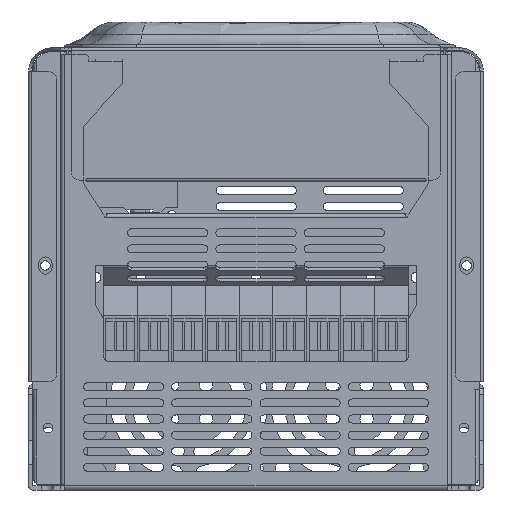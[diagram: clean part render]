
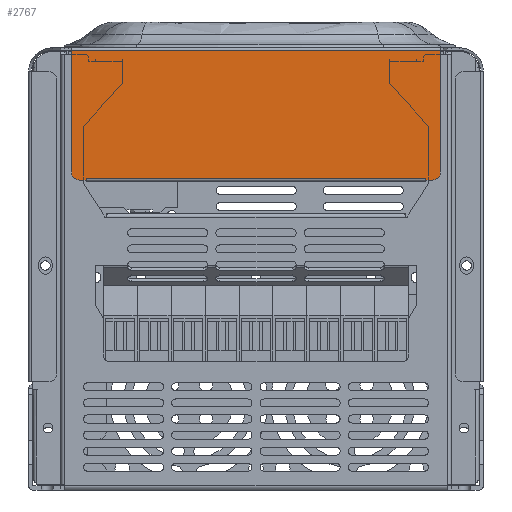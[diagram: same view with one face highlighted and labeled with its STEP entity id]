
A CAD part, front view. The second image highlights one B-rep face of the part: STEP entity #2767.
In plain terms, the highlighted planar face has unit normal (0, -1, 0).
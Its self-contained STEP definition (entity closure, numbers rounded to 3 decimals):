
#2767 = ADVANCED_FACE( '', ( #5920 ), #5921, .F. );
#5920 = FACE_OUTER_BOUND( '', #11511, .T. );
#5921 = PLANE( '', #11512 );
#11511 = EDGE_LOOP( '', ( #21845, #21846, #21847, #21848, #21849, #21850, #21851, #21852, #21853, #21854, #21855, #21856 ) );
#11512 = AXIS2_PLACEMENT_3D( '', #21857, #21858, #21859 );
#21845 = ORIENTED_EDGE( '', *, *, #29454, .F. );
#21846 = ORIENTED_EDGE( '', *, *, #29954, .T. );
#21847 = ORIENTED_EDGE( '', *, *, #30593, .T. );
#21848 = ORIENTED_EDGE( '', *, *, #31719, .F. );
#21849 = ORIENTED_EDGE( '', *, *, #31537, .F. );
#21850 = ORIENTED_EDGE( '', *, *, #30470, .T. );
#21851 = ORIENTED_EDGE( '', *, *, #31720, .F. );
#21852 = ORIENTED_EDGE( '', *, *, #31721, .F. );
#21853 = ORIENTED_EDGE( '', *, *, #29701, .F. );
#21854 = ORIENTED_EDGE( '', *, *, #31722, .T. );
#21855 = ORIENTED_EDGE( '', *, *, #29765, .F. );
#21856 = ORIENTED_EDGE( '', *, *, #31616, .T. );
#21857 = CARTESIAN_POINT( '', ( -69., -124.544, 24.061 ) );
#21858 = DIRECTION( '', ( 0., 1., 0. ) );
#21859 = DIRECTION( '', ( 0., 0., 1. ) );
#29454 = EDGE_CURVE( '', #44590, #44592, #44593, .T. );
#29701 = EDGE_CURVE( '', #45014, #45016, #45017, .T. );
#29765 = EDGE_CURVE( '', #45122, #45118, #45124, .T. );
#29954 = EDGE_CURVE( '', #44590, #45432, #45434, .F. );
#30470 = EDGE_CURVE( '', #46254, #46252, #46255, .F. );
#30593 = EDGE_CURVE( '', #45432, #46442, #46443, .T. );
#31537 = EDGE_CURVE( '', #46254, #47797, #47798, .T. );
#31616 = EDGE_CURVE( '', #45122, #44592, #47907, .T. );
#31719 = EDGE_CURVE( '', #47797, #46442, #48031, .T. );
#31720 = EDGE_CURVE( '', #48032, #46252, #48033, .T. );
#31721 = EDGE_CURVE( '', #45016, #48032, #48034, .T. );
#31722 = EDGE_CURVE( '', #45014, #45118, #48035, .T. );
#44590 = VERTEX_POINT( '', #53932 );
#44592 = VERTEX_POINT( '', #53935 );
#44593 = LINE( '', #53936, #53937 );
#45014 = VERTEX_POINT( '', #54586 );
#45016 = VERTEX_POINT( '', #54589 );
#45017 = LINE( '', #54590, #54591 );
#45118 = VERTEX_POINT( '', #54817 );
#45122 = VERTEX_POINT( '', #54823 );
#45124 = LINE( '', #54826, #54827 );
#45432 = VERTEX_POINT( '', #55294 );
#45434 = CIRCLE( '', #55297, 3. );
#46252 = VERTEX_POINT( '', #56518 );
#46254 = VERTEX_POINT( '', #56521 );
#46255 = CIRCLE( '', #56522, 3. );
#46442 = VERTEX_POINT( '', #56828 );
#46443 = LINE( '', #56829, #56830 );
#47797 = VERTEX_POINT( '', #59253 );
#47798 = LINE( '', #59254, #59255 );
#47907 = LINE( '', #59489, #59490 );
#48031 = LINE( '', #59668, #59669 );
#48032 = VERTEX_POINT( '', #59670 );
#48033 = LINE( '', #59671, #59672 );
#48034 = LINE( '', #59673, #59674 );
#48035 = LINE( '', #59675, #59676 );
#53932 = CARTESIAN_POINT( '', ( 66., -124.544, 24.561 ) );
#53935 = CARTESIAN_POINT( '', ( 63.502, -124.544, 24.561 ) );
#53936 = CARTESIAN_POINT( '', ( 63.502, -124.544, 24.561 ) );
#53937 = VECTOR( '', #67877, 1000. );
#54586 = CARTESIAN_POINT( '', ( -63.5, -124.544, 25.071 ) );
#54589 = CARTESIAN_POINT( '', ( -63.502, -124.544, 25.071 ) );
#54590 = CARTESIAN_POINT( '', ( -63.5, -124.544, 25.071 ) );
#54591 = VECTOR( '', #68195, 1000. );
#54817 = CARTESIAN_POINT( '', ( 63.5, -124.544, 25.071 ) );
#54823 = CARTESIAN_POINT( '', ( 63.502, -124.544, 25.071 ) );
#54826 = CARTESIAN_POINT( '', ( -63.5, -124.544, 25.071 ) );
#54827 = VECTOR( '', #68278, 1000. );
#55294 = CARTESIAN_POINT( '', ( 69., -124.544, 27.561 ) );
#55297 = AXIS2_PLACEMENT_3D( '', #68522, #68523, #68524 );
#56518 = CARTESIAN_POINT( '', ( -66., -124.544, 24.561 ) );
#56521 = CARTESIAN_POINT( '', ( -69., -124.544, 27.561 ) );
#56522 = AXIS2_PLACEMENT_3D( '', #69200, #69201, #69202 );
#56828 = CARTESIAN_POINT( '', ( 69., -124.544, 73.051 ) );
#56829 = CARTESIAN_POINT( '', ( 69., -124.544, 24.061 ) );
#56830 = VECTOR( '', #69339, 1000. );
#59253 = CARTESIAN_POINT( '', ( -69., -124.544, 73.051 ) );
#59254 = CARTESIAN_POINT( '', ( -69., -124.544, 24.061 ) );
#59255 = VECTOR( '', #70585, 1000. );
#59489 = CARTESIAN_POINT( '', ( 63.502, -124.544, 25.071 ) );
#59490 = VECTOR( '', #70669, 1000. );
#59668 = CARTESIAN_POINT( '', ( -69., -124.544, 73.051 ) );
#59669 = VECTOR( '', #70792, 1000. );
#59670 = CARTESIAN_POINT( '', ( -63.502, -124.544, 24.561 ) );
#59671 = CARTESIAN_POINT( '', ( -69., -124.544, 24.561 ) );
#59672 = VECTOR( '', #70793, 1000. );
#59673 = CARTESIAN_POINT( '', ( -63.502, -124.544, 25.071 ) );
#59674 = VECTOR( '', #70794, 1000. );
#59675 = CARTESIAN_POINT( '', ( -63.5, -124.544, 25.071 ) );
#59676 = VECTOR( '', #70795, 1000. );
#67877 = DIRECTION( '', ( -1., 0., 0. ) );
#68195 = DIRECTION( '', ( -1., 0., 0. ) );
#68278 = DIRECTION( '', ( -1., 0., 0. ) );
#68522 = CARTESIAN_POINT( '', ( 66., -124.544, 27.561 ) );
#68523 = DIRECTION( '', ( 0., 1., 0. ) );
#68524 = DIRECTION( '', ( 0., 0., 1. ) );
#69200 = CARTESIAN_POINT( '', ( -66., -124.544, 27.561 ) );
#69201 = DIRECTION( '', ( 0., 1., 0. ) );
#69202 = DIRECTION( '', ( 0., 0., 1. ) );
#69339 = DIRECTION( '', ( 0., 0., 1. ) );
#70585 = DIRECTION( '', ( 0., 0., 1. ) );
#70669 = DIRECTION( '', ( 0., 0., -1. ) );
#70792 = DIRECTION( '', ( 1., 0., 0. ) );
#70793 = DIRECTION( '', ( -1., 0., 0. ) );
#70794 = DIRECTION( '', ( 0., 0., -1. ) );
#70795 = DIRECTION( '', ( 1., 0., 0. ) );
